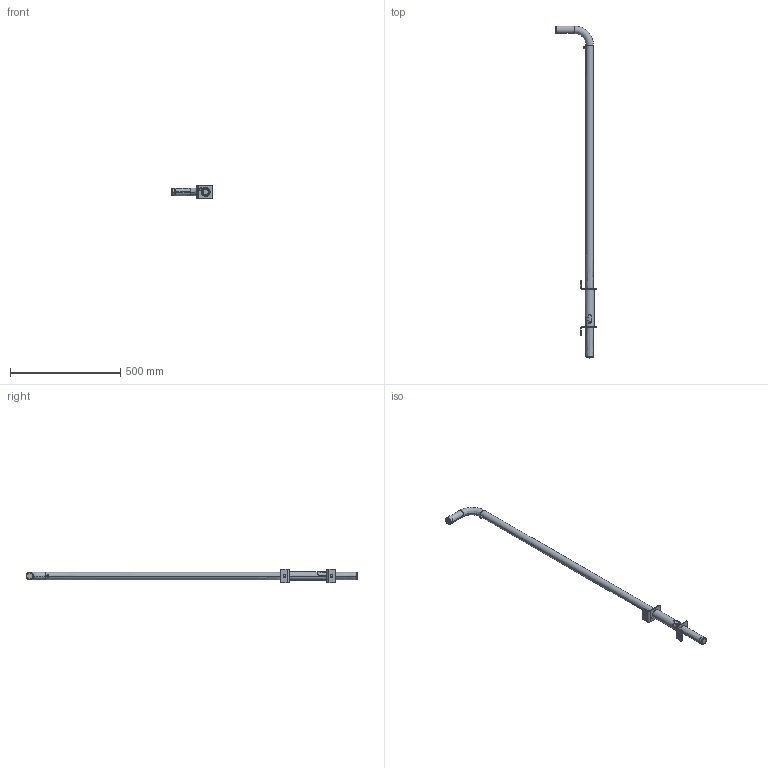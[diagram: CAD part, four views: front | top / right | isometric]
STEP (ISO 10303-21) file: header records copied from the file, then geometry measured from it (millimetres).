
FILE_DESCRIPTION((''),'2;1');
FILE_NAME('51277787','2018-11-05T',('set'),('HUBER SE'),'PRO/ENGINEER BY PARAMETRIC TECHNOLOGY CORPORATION, 2017170','PRO/ENGINEER BY PARAMETRIC TECHNOLOGY CORPORATION, 2017170','');
FILE_SCHEMA(('AUTOMOTIVE_DESIGN { 1 0 10303 214 1 1 1 1 }'));
Length unit declared in the file: millimetre
Products named in the file (1): 51277787
Bounding box: 186 x 1505 x 60 mm (x, y, z)
Volume: 633997.2 mm3; surface area: 371929.9 mm2
Topology: 3 solids, 3 shells, 116 faces, 278 edges, 174 vertices
Faces by surface type: plane 48, cylinder 48, bspline 12, cone 8
Entity records: 9498 total; most frequent: CARTESIAN_POINT 6125, ORIENTED_EDGE 556, DIRECTION 550, EDGE_CURVE 278, AXIS2_PLACEMENT_3D 204, VERTEX_POINT 174, VECTOR 142, LINE 142
